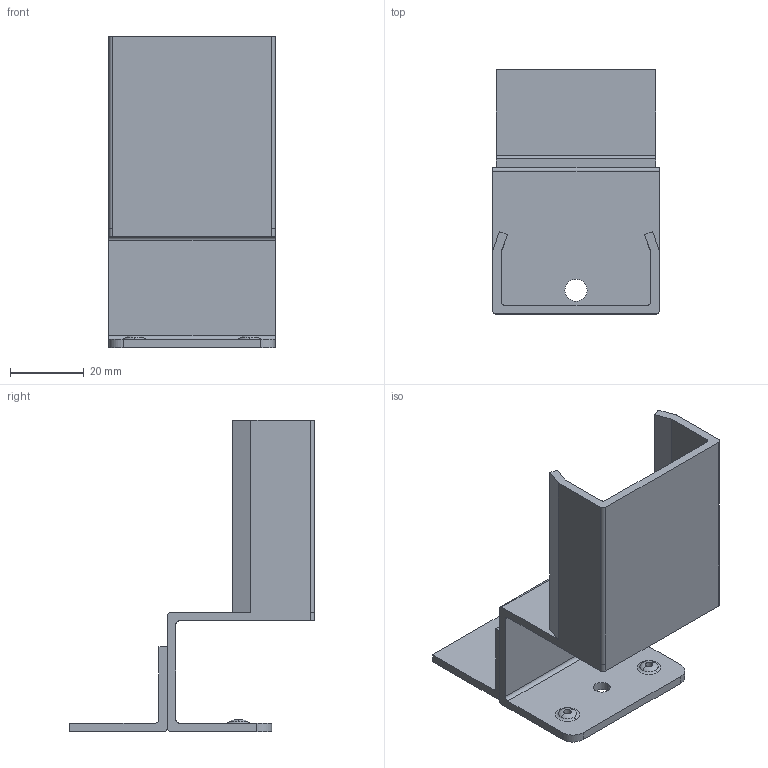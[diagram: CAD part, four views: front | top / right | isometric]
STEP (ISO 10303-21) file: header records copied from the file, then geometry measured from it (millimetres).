
FILE_DESCRIPTION (( 'STEP AP203' ), '1' );
FILE_NAME ('015.200.002.STEP', '2016-10-24T08:37:33', ( '' ), ( '' ), 'SwSTEP 2.0', 'SolidWorks 2016', '' );
FILE_SCHEMA (( 'CONFIG_CONTROL_DESIGN' ));
Length unit declared in the file: millimetre
Products named in the file (1): 015.200.002
Bounding box: 45.1 x 66.3 x 84.3 mm (x, y, z)
Volume: 24657.4 mm3; surface area: 22649.5 mm2
Topology: 2 solids, 2 shells, 66 faces, 174 edges, 112 vertices
Faces by surface type: plane 28, cylinder 26, torus 12
Entity records: 2147 total; most frequent: DIRECTION 382, CARTESIAN_POINT 353, ORIENTED_EDGE 348, EDGE_CURVE 174, AXIS2_PLACEMENT_3D 141, VERTEX_POINT 112, LINE 100, VECTOR 100
